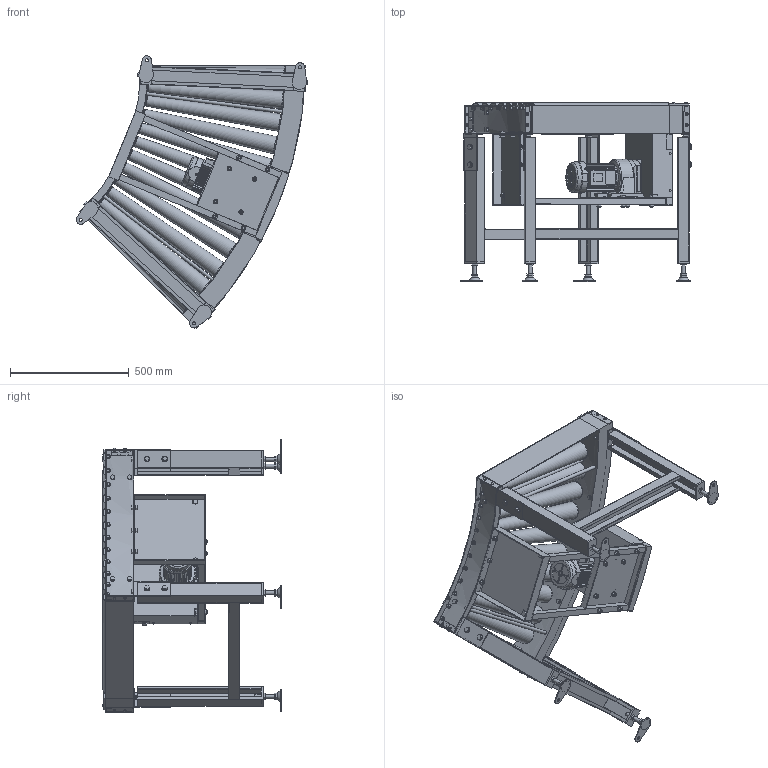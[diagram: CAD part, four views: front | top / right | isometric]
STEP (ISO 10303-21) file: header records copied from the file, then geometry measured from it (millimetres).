
FILE_DESCRIPTION( (''), '2;1');
FILE_NAME ('WEB-MCC3-45-630-75-45°-L.stp','2025-07-18T08:02:32',(''),(''),'spGate 20.6.2 (****-****-****-****)','','');
FILE_SCHEMA (('AUTOMOTIVE_DESIGN'));
Length unit declared in the file: millimetre
Products named in the file (22): WEB-MCC3-45-630-75-45_-L; TEMP_X_T-prt0; TEMP_X_T-prt1; TEMP_X_T-prt2; TEMP_X_T-prt3; TEMP_X_T-prt4; TEMP_X_T-prt5; TEMP_X_T-prt6; TEMP_X_T-prt7; TEMP_X_T-prt8; TEMP_X_T-prt9; TEMP_X_T-prt10; TEMP_X_T-prt11; TEMP_X_T-prt12; TEMP_X_T-prt13; TEMP_X_T-prt14; TEMP_X_T-prt15; TEMP_X_T-prt16; TEMP_X_T-prt17; TEMP_X_T-prt18; TEMP_X_T-prt19; TEMP_X_T-prt20
Assembly tree (21 placements, depth 2):
  WEB-MCC3-45-630-75-45_-L
    TEMP_X_T-prt0
    TEMP_X_T-prt1
    TEMP_X_T-prt2
    TEMP_X_T-prt3
    TEMP_X_T-prt4
    TEMP_X_T-prt5
    TEMP_X_T-prt6
    TEMP_X_T-prt7
    TEMP_X_T-prt8
    TEMP_X_T-prt9
    TEMP_X_T-prt10
    TEMP_X_T-prt11
    TEMP_X_T-prt12
    TEMP_X_T-prt13
    TEMP_X_T-prt14
    TEMP_X_T-prt15
    TEMP_X_T-prt16
    TEMP_X_T-prt17
    TEMP_X_T-prt18
    TEMP_X_T-prt19
    TEMP_X_T-prt20
Bounding box: 973.49 x 751 x 1145.52 mm (x, y, z)
Volume: 42083539.2 mm3; surface area: 5288232.5 mm2
Topology: 21 solids, 22 shells, 2664 faces, 6828 edges, 4524 vertices
Faces by surface type: plane 2048, cylinder 529, bspline 87
Full cylindrical faces by diameter (mm): 5 x4, 6 x28, 8 x5, 9.2 x4, 10 x46, 10.5 x4, 12 x14, 12.2 x12, 13 x12, 13.8 x12, 15 x1, 15.4 x20, 16 x16, 17.3 x12, 18 x16, 18.4 x24, 21 x4, 21.5 x1, 24 x8, 28 x13, 31 x1, 63 x1, 113.2 x1, 153 x1
Entity records: 143523 total; most frequent: CARTESIAN_POINT 22629, ORIENTED_EDGE 13654, DIRECTION 13338, COLOUR_RGB 9512, PRESENTATION_STYLE_ASSIGNMENT 9512, STYLED_ITEM 9512, EDGE_CURVE 6827, DRAUGHTING_PRE_DEFINED_CURVE_FONT 6827
